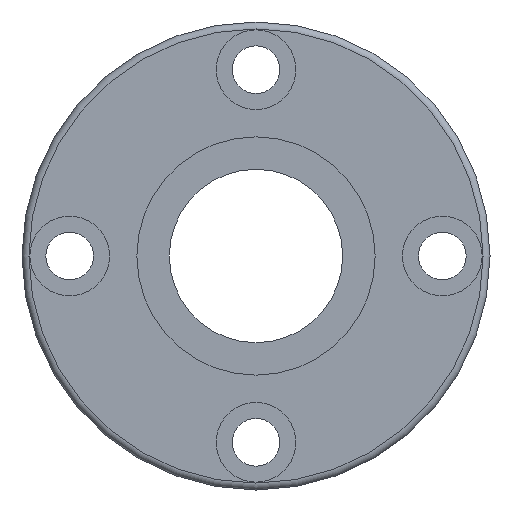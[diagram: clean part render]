
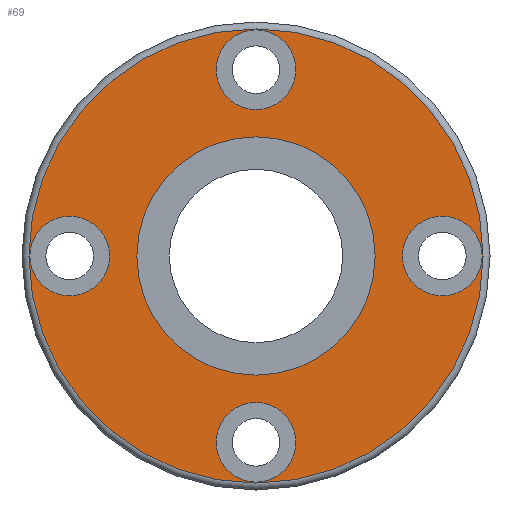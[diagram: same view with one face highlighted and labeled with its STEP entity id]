
A CAD part, left-side view. The second image highlights one B-rep face of the part: STEP entity #69.
In plain terms, the highlighted planar face has unit normal (-1, 0, 0).
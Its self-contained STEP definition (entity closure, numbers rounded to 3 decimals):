
#69 = ADVANCED_FACE( '', ( #162, #163, #164, #165, #166, #167 ), #168, .T. );
#162 = FACE_BOUND( '', #285, .T. );
#163 = FACE_BOUND( '', #286, .T. );
#164 = FACE_BOUND( '', #287, .T. );
#165 = FACE_BOUND( '', #288, .T. );
#166 = FACE_BOUND( '', #289, .T. );
#167 = FACE_OUTER_BOUND( '', #290, .T. );
#168 = PLANE( '', #291 );
#285 = EDGE_LOOP( '', ( #420 ) );
#286 = EDGE_LOOP( '', ( #421 ) );
#287 = EDGE_LOOP( '', ( #422 ) );
#288 = EDGE_LOOP( '', ( #423 ) );
#289 = EDGE_LOOP( '', ( #424 ) );
#290 = EDGE_LOOP( '', ( #425 ) );
#291 = AXIS2_PLACEMENT_3D( '', #426, #427, #428 );
#420 = ORIENTED_EDGE( '', *, *, #559, .T. );
#421 = ORIENTED_EDGE( '', *, *, #560, .T. );
#422 = ORIENTED_EDGE( '', *, *, #561, .T. );
#423 = ORIENTED_EDGE( '', *, *, #562, .T. );
#424 = ORIENTED_EDGE( '', *, *, #563, .F. );
#425 = ORIENTED_EDGE( '', *, *, #556, .T. );
#426 = CARTESIAN_POINT( '', ( 0., 20.275, 0. ) );
#427 = DIRECTION( '', ( -1., 0., 0. ) );
#428 = DIRECTION( '', ( 0., 1., 0. ) );
#556 = EDGE_CURVE( '', #630, #630, #631, .T. );
#559 = EDGE_CURVE( '', #635, #635, #636, .T. );
#560 = EDGE_CURVE( '', #637, #637, #638, .T. );
#561 = EDGE_CURVE( '', #639, #639, #640, .T. );
#562 = EDGE_CURVE( '', #641, #641, #642, .T. );
#563 = EDGE_CURVE( '', #643, #643, #644, .T. );
#630 = VERTEX_POINT( '', #719 );
#631 = CIRCLE( '', #720, 26.2 );
#635 = VERTEX_POINT( '', #724 );
#636 = CIRCLE( '', #725, 4.6 );
#637 = VERTEX_POINT( '', #726 );
#638 = CIRCLE( '', #727, 4.6 );
#639 = VERTEX_POINT( '', #728 );
#640 = CIRCLE( '', #729, 4.6 );
#641 = VERTEX_POINT( '', #730 );
#642 = CIRCLE( '', #731, 4.6 );
#643 = VERTEX_POINT( '', #732 );
#644 = CIRCLE( '', #733, 13.75 );
#719 = CARTESIAN_POINT( '', ( 0., 26.2, 0. ) );
#720 = AXIS2_PLACEMENT_3D( '', #815, #816, #817 );
#724 = CARTESIAN_POINT( '', ( 0., 0., -26.1 ) );
#725 = AXIS2_PLACEMENT_3D( '', #821, #822, #823 );
#726 = CARTESIAN_POINT( '', ( 0., 0., 26.1 ) );
#727 = AXIS2_PLACEMENT_3D( '', #824, #825, #826 );
#728 = CARTESIAN_POINT( '', ( 0., 26.1, 0. ) );
#729 = AXIS2_PLACEMENT_3D( '', #827, #828, #829 );
#730 = CARTESIAN_POINT( '', ( 0., -26.1, 0. ) );
#731 = AXIS2_PLACEMENT_3D( '', #830, #831, #832 );
#732 = CARTESIAN_POINT( '', ( 0., 13.75, 0. ) );
#733 = AXIS2_PLACEMENT_3D( '', #833, #834, #835 );
#815 = CARTESIAN_POINT( '', ( 0., 0., 0. ) );
#816 = DIRECTION( '', ( -1., 0., 0. ) );
#817 = DIRECTION( '', ( 0., 0., 1. ) );
#821 = CARTESIAN_POINT( '', ( 0., 0., -21.5 ) );
#822 = DIRECTION( '', ( 1., 0., 0. ) );
#823 = DIRECTION( '', ( 0., 0., -1. ) );
#824 = CARTESIAN_POINT( '', ( 0., 0., 21.5 ) );
#825 = DIRECTION( '', ( 1., 0., 0. ) );
#826 = DIRECTION( '', ( 0., 0., 1. ) );
#827 = CARTESIAN_POINT( '', ( 0., 21.5, 0. ) );
#828 = DIRECTION( '', ( 1., 0., 0. ) );
#829 = DIRECTION( '', ( 0., 1., 0. ) );
#830 = CARTESIAN_POINT( '', ( 0., -21.5, 0. ) );
#831 = DIRECTION( '', ( 1., 0., 0. ) );
#832 = DIRECTION( '', ( 0., -1., 0. ) );
#833 = CARTESIAN_POINT( '', ( 0., 0., 0. ) );
#834 = DIRECTION( '', ( -1., 0., 0. ) );
#835 = DIRECTION( '', ( 0., 1., 0. ) );
